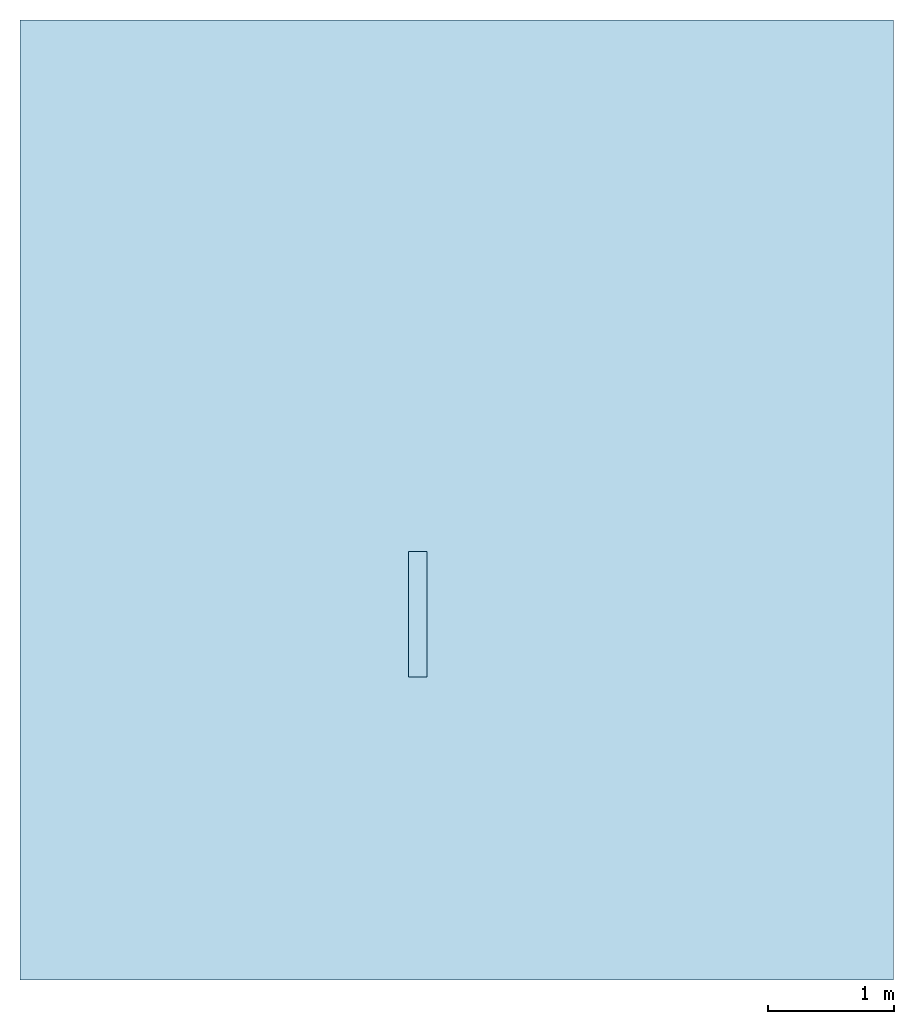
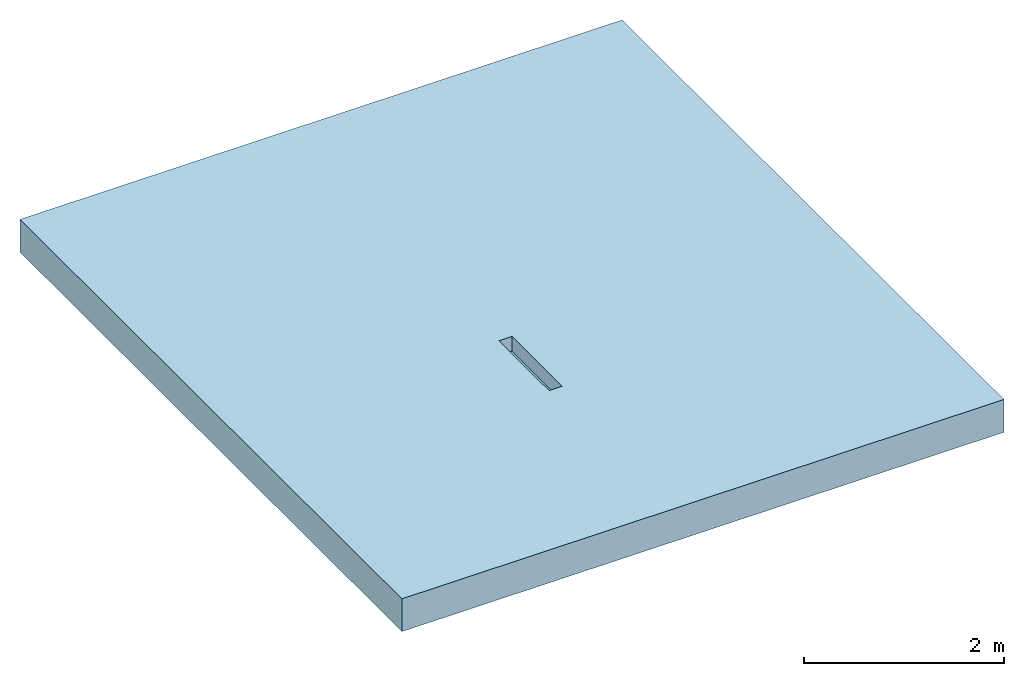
# One storey: 1 slab, 2 openings.
"""IFC2X3 building model written with IfcOpenShell, lengths in millimetres."""

from ifc_helpers import new_model, entity, si_unit, converted_unit, direction, frame, frame_2d, origin, origin_2d_with_axis, place, context, subcontext, project, spatial, rectangle, circle, extrude, material, layer, layer_set, layer_usage, element, save


model = new_model("IFC2X3")

# Units and contexts
model_context = context("Model", 3, precision=1e-06, world=origin(), true_north=direction((2.0, 6.12303176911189e-17, 1.0)))
context_of_model = context(None, 3, precision=1e-06, world=origin(), true_north=direction((2.0, 6.12303176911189e-17, 1.0)))
body_context = subcontext(model_context, "Body", "Model", "MODEL_VIEW")
ifc_project = project(units=[si_unit("LENGTHUNIT", "METRE", prefix="MILLI"), si_unit("AREAUNIT", "SQUARE_METRE", prefix="MILLI"), si_unit("VOLUMEUNIT", "CUBIC_METRE", prefix="MILLI"), converted_unit("PLANEANGLEUNIT", "DEGREE", entity("IfcRatioMeasure", 0.0174532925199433), si_unit("PLANEANGLEUNIT", "RADIAN"), dimensions=[0, 0, 0, 0, 0, 0, 0]), si_unit("TIMEUNIT", "SECOND")], contexts=[model_context, context_of_model])

# Site, building, storey
site_placement = place(None, origin())
site = spatial("IfcSite", under=ifc_project, at=site_placement, Name="Default", CompositionType="ELEMENT")
building_placement = place(site_placement, origin())
building = spatial("IfcBuilding", under=site, at=building_placement, CompositionType="ELEMENT")
storey_placement = place(building_placement, origin())
storey = spatial("IfcBuildingStorey", under=building, at=storey_placement, Name="Level 1", CompositionType="ELEMENT", Elevation=0.0)

# Slab, openings
ifc_material = material(Name="Default Floor")
ifc_layer = layer(ifc_material, 400.0)
ifc_layer_set = layer_set([ifc_layer], Name="Floor:Generic Floor - 400mm")
ifc_layer_usage = layer_usage(ifc_layer_set, "AXIS3", "POSITIVE", 0.0)
slab_placement = place(storey_placement, frame((-7426.51252910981, -9304.1683846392, -400.0)))
slab = element("IfcSlab", 1, at=slab_placement, inside=storey, material=ifc_layer_usage, Name="Floor:Generic Floor - 400mm", ObjectType="Floor:Generic Floor - 400mm", PredefinedType="FLOOR", context=body_context, shape_type="SweptSolid", body=[
    extrude(rectangle(XDim=7632.29114211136, YDim=6946.28644627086, at=frame_2d((0.0, 0.0), x_axis=(0.0, -1.0))), frame((3473.14322313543, 3816.14557105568, 400.0), z_axis=(0.0, 0.0, -1.0), x_axis=(-1.0, 0.0, 0.0)), (0.0, 0.0, 1.0), 400.0),
])
opening_1_placement = place(slab_placement, origin())
element("IfcOpeningElement", 2, at=opening_1_placement, cuts=slab, ObjectType="Recess", context=body_context, shape_type="SweptSolid", body=[
    extrude(circle(Radius=55.0000000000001, at=origin_2d_with_axis()), frame((3162.3019651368, 2457.6181649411, -5475.0), z_axis=(0.0, 1.0, 0.0), x_axis=(1.0, 0.0, 0.0)), (0.0, 0.0, 1.0), 49.9999999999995),
])
opening_2_placement = place(slab_placement, origin())
element("IfcOpeningElement", 3, at=opening_2_placement, cuts=slab, ObjectType="Recess", context=body_context, shape_type="SweptSolid", body=[
    extrude(rectangle(XDim=1000.0, YDim=150.000000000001, at=origin_2d_with_axis()), frame((3162.30196513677, 2907.6181649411, 220.0), z_axis=(0.0, 0.0, 1.0), x_axis=(0.0, -1.0, 0.0)), (0.0, 0.0, 1.0), 180.0),
])

save(model, "model.ifc")
